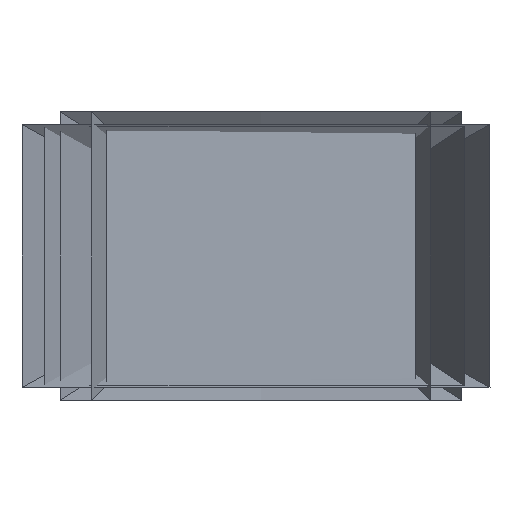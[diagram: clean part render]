
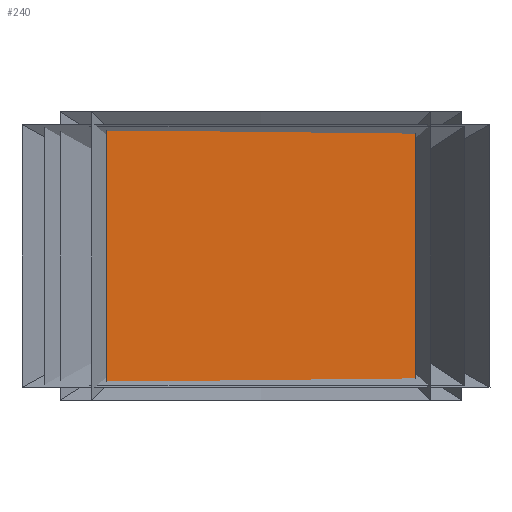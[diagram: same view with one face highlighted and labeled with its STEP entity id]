
A CAD part, front view. The second image highlights one B-rep face of the part: STEP entity #240.
In plain terms, the highlighted planar face has unit normal (0, -1, 0).
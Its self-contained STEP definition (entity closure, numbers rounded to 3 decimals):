
#58=DIRECTION('',(0.,0.,-1.));
#59=VECTOR('',#58,590.);
#60=CARTESIAN_POINT('',(-610.,-935.25,276.05));
#61=LINE('',#60,#59);
#74=DIRECTION('',(1.,0.,0.));
#75=VECTOR('',#74,720.);
#76=CARTESIAN_POINT('',(-610.,-935.25,276.05));
#77=LINE('',#76,#75);
#86=DIRECTION('',(0.,0.,-1.));
#87=VECTOR('',#86,590.);
#88=CARTESIAN_POINT('',(110.,-935.25,276.05));
#89=LINE('',#88,#87);
#94=DIRECTION('',(-1.,0.,0.));
#95=VECTOR('',#94,720.);
#96=CARTESIAN_POINT('',(110.,-935.25,-313.95));
#97=LINE('',#96,#95);
#114=CARTESIAN_POINT('',(-610.,-935.25,276.05));
#115=CARTESIAN_POINT('',(-610.,-935.25,-313.95));
#116=VERTEX_POINT('',#114);
#117=VERTEX_POINT('',#115);
#118=CARTESIAN_POINT('',(110.,-935.25,276.05));
#119=VERTEX_POINT('',#118);
#120=CARTESIAN_POINT('',(110.,-935.25,-313.95));
#121=VERTEX_POINT('',#120);
#229=CARTESIAN_POINT('',(-250.,-935.25,-18.95));
#230=DIRECTION('',(0.,1.,0.));
#231=DIRECTION('',(1.,0.,0.));
#232=AXIS2_PLACEMENT_3D('',#229,#230,#231);
#233=PLANE('',#232);
#234=ORIENTED_EDGE('',*,*,#152,.F.);
#235=ORIENTED_EDGE('',*,*,#174,.T.);
#236=ORIENTED_EDGE('',*,*,#195,.T.);
#237=ORIENTED_EDGE('',*,*,#215,.T.);
#238=EDGE_LOOP('',(#234,#235,#236,#237));
#239=FACE_OUTER_BOUND('',#238,.F.);
#240=ADVANCED_FACE('',(#239),#233,.F.);
#152=EDGE_CURVE('',#116,#117,#61,.T.);
#174=EDGE_CURVE('',#116,#119,#77,.T.);
#195=EDGE_CURVE('',#119,#121,#89,.T.);
#215=EDGE_CURVE('',#121,#117,#97,.T.);
